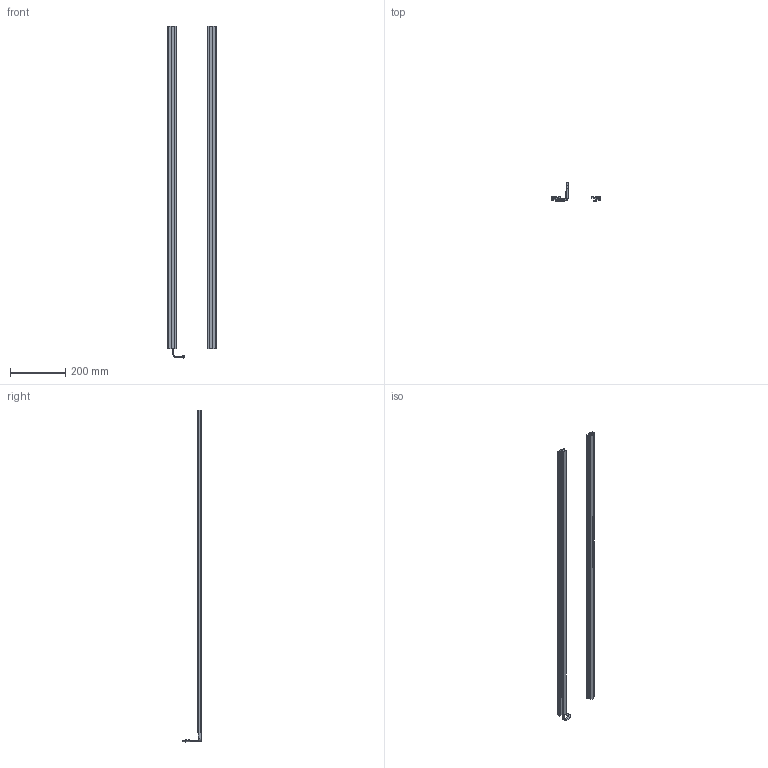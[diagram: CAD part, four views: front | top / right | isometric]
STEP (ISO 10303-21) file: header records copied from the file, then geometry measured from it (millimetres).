
FILE_DESCRIPTION (( 'STEP AP214' ), '1' );
FILE_NAME ('Traversenpaare inkl. Traversenkabel_1170.step', '2010-10-19T14:28:30', ( 'grass' ), ( '' ), 'SwSTEP 2.0', 'SolidWorks 2010', '' );
FILE_SCHEMA (( 'AUTOMOTIVE_DESIGN' ));
Length unit declared in the file: millimetre
Products named in the file (1): Traversenpaare inkl. Traversenkabel_1170
Bounding box: 176 x 72.5 x 1203.75 mm (x, y, z)
Volume: 598227.7 mm3; surface area: 378050.3 mm2
Topology: 2 solids, 2 shells, 127 faces, 361 edges, 238 vertices
Faces by surface type: plane 107, cylinder 18, cone 2
Entity records: 4126 total; most frequent: CARTESIAN_POINT 733, ORIENTED_EDGE 722, DIRECTION 655, EDGE_CURVE 361, VECTOR 319, LINE 319, VERTEX_POINT 238, AXIS2_PLACEMENT_3D 168
